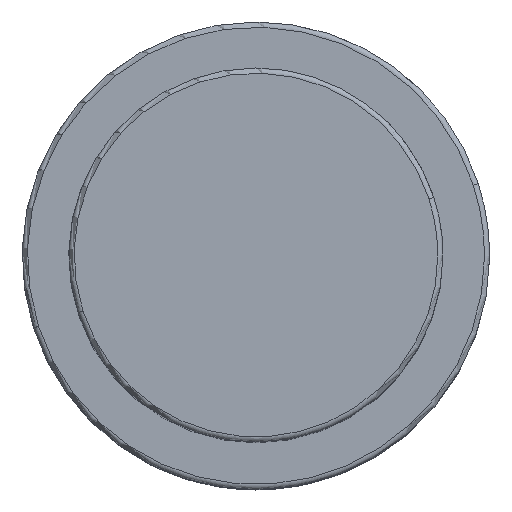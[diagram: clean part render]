
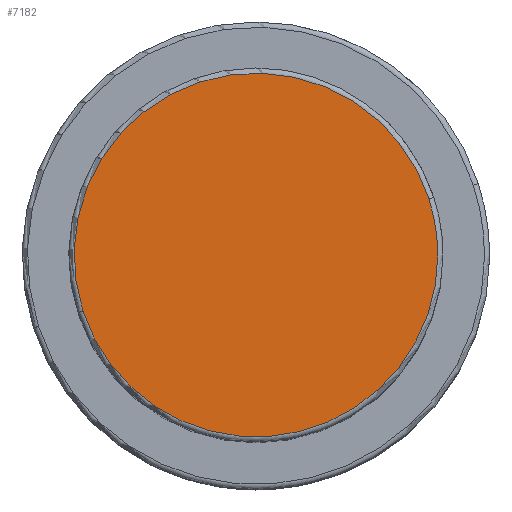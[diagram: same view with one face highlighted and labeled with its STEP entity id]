
A CAD part, top view. The second image highlights one B-rep face of the part: STEP entity #7182.
In plain terms, the highlighted planar face has unit normal (0, 0, 1).
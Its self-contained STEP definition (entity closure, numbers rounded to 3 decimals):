
#7148=CARTESIAN_POINT('',(17.5,0.0,68.0));
#7149=VERTEX_POINT('',#7148);
#7150=CARTESIAN_POINT('',(16.643,5.408,68.0));
#7151=VERTEX_POINT('',#7150);
#7152=CARTESIAN_POINT('',(0.0,0.0,68.0));
#7153=DIRECTION('',(0.0,0.0,1.0));
#7154=DIRECTION('',(1.0,0.0,0.0));
#7155=AXIS2_PLACEMENT_3D('',#7152,#7153,#7154);
#7156=CIRCLE('',#7155,17.5);
#7157=EDGE_CURVE('no 3619',#7149,#7151,#7156,.T.);
#7158=ORIENTED_EDGE('',*,*,#7157,.T.);
#7159=CARTESIAN_POINT('',(-16.643,-5.408,68.0));
#7160=VERTEX_POINT('',#7159);
#7161=CARTESIAN_POINT('',(0.0,0.0,68.0));
#7162=DIRECTION('',(0.0,0.0,1.0));
#7163=DIRECTION('',(1.0,0.0,0.0));
#7164=AXIS2_PLACEMENT_3D('',#7161,#7162,#7163);
#7165=CIRCLE('',#7164,17.5);
#7166=EDGE_CURVE('no 3625',#7151,#7160,#7165,.T.);
#7167=ORIENTED_EDGE('',*,*,#7166,.T.);
#7168=CARTESIAN_POINT('',(0.0,0.0,68.0));
#7169=DIRECTION('',(0.0,0.0,1.0));
#7170=DIRECTION('',(1.0,0.0,0.0));
#7171=AXIS2_PLACEMENT_3D('',#7168,#7169,#7170);
#7172=CIRCLE('',#7171,17.5);
#7173=EDGE_CURVE('no 3629',#7160,#7149,#7172,.T.);
#7174=ORIENTED_EDGE('',*,*,#7173,.T.);
#7175=EDGE_LOOP('',(#7158,#7167,#7174));
#7176=FACE_OUTER_BOUND('',#7175,.T.);
#7177=CARTESIAN_POINT('',(0.0,0.0,68.0));
#7178=DIRECTION('',(0.0,0.0,1.0));
#7179=DIRECTION('',(1.0,0.0,0.0));
#7180=AXIS2_PLACEMENT_3D('',#7177,#7178,#7179);
#7181=PLANE('',#7180);
#7182=ADVANCED_FACE('no 3610',(#7176),#7181,.T.);
